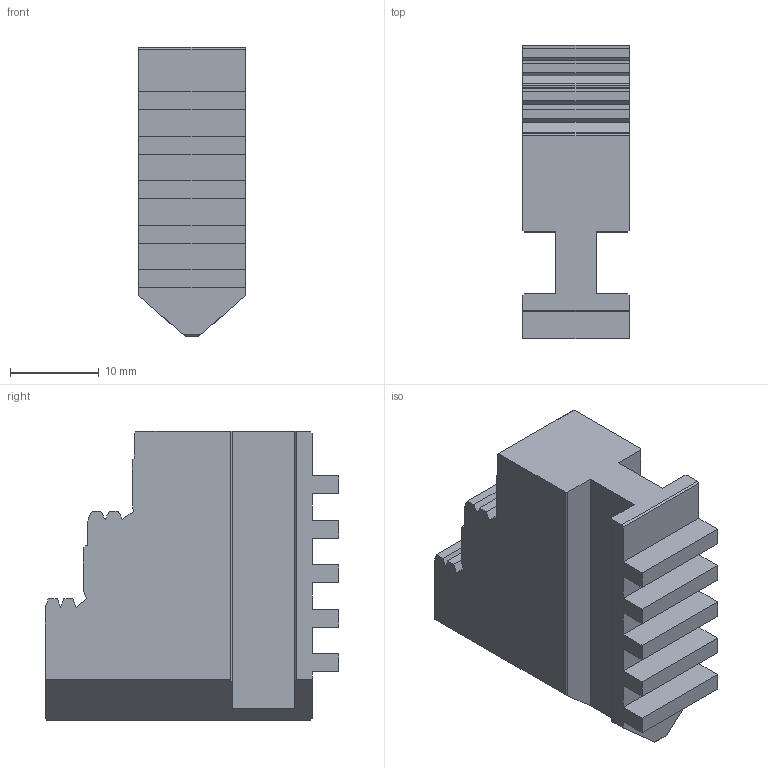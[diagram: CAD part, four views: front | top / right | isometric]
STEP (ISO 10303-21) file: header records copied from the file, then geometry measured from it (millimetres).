
FILE_DESCRIPTION(/* description */ (''),/* implementation_level */ '2;1');
FILE_NAME(/* name */ '',/* time_stamp */ '2025-10-17T09:54:06+03:00',/* author */ ('Arina Rekina'),/* organization */ (''),/* preprocessor_version */ 'ST-DEVELOPER v19.2',/* originating_system */ 'Autodesk Inventor 2024',/* authorisation */ '');
FILE_SCHEMA (('AUTOMOTIVE_DESIGN { 1 0 10303 214 3 1 1 }'));
Length unit declared in the file: millimetre
Products named in the file (1): Часть 1
Bounding box: 12 x 33 x 32.5 mm (x, y, z)
Volume: 8148.6 mm3; surface area: 3771.5 mm2
Topology: 1 solids, 1 shells, 69 faces, 201 edges, 134 vertices
Faces by surface type: plane 69
Entity records: 2272 total; most frequent: CARTESIAN_POINT 405, ORIENTED_EDGE 402, DIRECTION 341, LINE 201, VECTOR 201, EDGE_CURVE 201, VERTEX_POINT 134, AXIS2_PLACEMENT_3D 70
